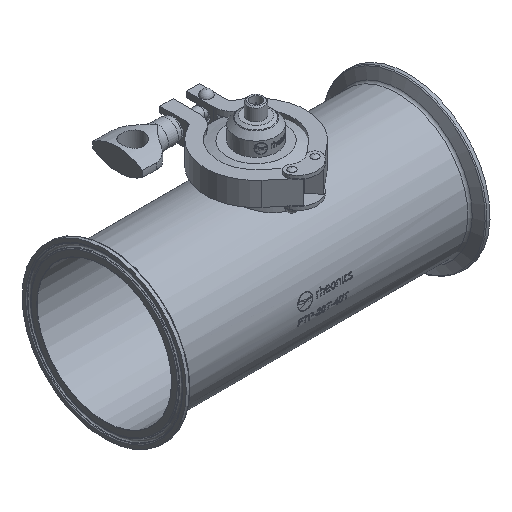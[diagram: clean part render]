
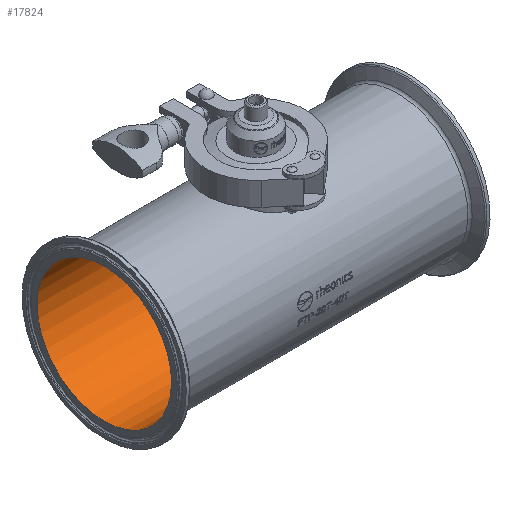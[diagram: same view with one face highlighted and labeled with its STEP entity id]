
A CAD part, isometric view. The second image highlights one B-rep face of the part: STEP entity #17824.
In plain terms, the highlighted cylindrical face has radius 48.69 mm (diameter 97.38 mm), a full revolution.
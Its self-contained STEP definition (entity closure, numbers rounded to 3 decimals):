
#2264=CIRCLE('',#18661,48.69);
#2265=CIRCLE('',#18662,48.69);
#2706=ORIENTED_EDGE('',*,*,#6540,.T.);
#2707=ORIENTED_EDGE('',*,*,#6541,.T.);
#2708=ORIENTED_EDGE('',*,*,#6542,.T.);
#6540=EDGE_CURVE('',#8457,#8457,#9771,.T.);
#6541=EDGE_CURVE('',#8458,#8458,#2264,.F.);
#6542=EDGE_CURVE('',#8459,#8459,#2265,.F.);
#8457=VERTEX_POINT('',#22349);
#8458=VERTEX_POINT('',#22351);
#8459=VERTEX_POINT('',#22353);
#9771=B_SPLINE_CURVE_WITH_KNOTS('',3,(#22304,#22305,#22306,#22307,#22308,
#22309,#22310,#22311,#22312,#22313,#22314,#22315,#22316,#22317,#22318,#22319,
#22320,#22321,#22322,#22323,#22324,#22325,#22326,#22327,#22328,#22329,#22330,
#22331,#22332,#22333,#22334,#22335,#22336,#22337,#22338,#22339,#22340,#22341,
#22342,#22343,#22344,#22345,#22346,#22347,#22348),.UNSPECIFIED.,.T.,.F.,
(1,1,1,1,1,1,1,1,1,1,1,1,1,1,1,1,1,1,1,1,1,1,1,1,1,1,1,1,1,1,1,1,1,1,1,
1,1,1,1,1,1,1,1,1,1,1,1,1,1),(-0.015,-0.01,
-0.005,0.,0.005,0.01,
0.015,0.02,0.022,0.025,
0.03,0.035,0.04,0.042,
0.045,0.047,0.05,0.055,
0.06,0.065,0.07,0.072,
0.075,0.08,0.085,0.089,
0.094,0.099,0.104,0.107,
0.109,0.112,0.114,0.117,
0.119,0.122,0.124,0.129,
0.132,0.134,0.137,0.139,
0.144,0.149,0.154,0.159,
0.164,0.169,0.174),.UNSPECIFIED.);
#10464=EDGE_LOOP('',(#2706));
#10465=EDGE_LOOP('',(#2707));
#10466=EDGE_LOOP('',(#2708));
#11503=FACE_BOUND('',#10464,.T.);
#11504=FACE_BOUND('',#10465,.T.);
#11505=FACE_BOUND('',#10466,.T.);
#12542=CYLINDRICAL_SURFACE('',#18660,48.69);
#17824=ADVANCED_FACE('',(#11503,#11504,#11505),#12542,.F.);
#18660=AXIS2_PLACEMENT_3D('',#22303,#19616,#19617);
#18661=AXIS2_PLACEMENT_3D('',#22350,#19618,#19619);
#18662=AXIS2_PLACEMENT_3D('',#22352,#19620,#19621);
#19616=DIRECTION('',(1.,0.,0.));
#19617=DIRECTION('',(0.,1.,0.));
#19618=DIRECTION('',(-1.,0.,0.));
#19619=DIRECTION('',(0.,-0.924,-0.382));
#19620=DIRECTION('',(1.,0.,0.));
#19621=DIRECTION('',(0.,0.,-1.));
#22303=CARTESIAN_POINT('',(-80.,0.,0.));
#22304=CARTESIAN_POINT('',(24.651,-5.07,48.51));
#22305=CARTESIAN_POINT('',(25.17,0.023,48.778));
#22306=CARTESIAN_POINT('',(24.667,4.979,48.518));
#22307=CARTESIAN_POINT('',(23.192,9.761,47.777));
#22308=CARTESIAN_POINT('',(20.869,14.048,46.683));
#22309=CARTESIAN_POINT('',(18.285,17.179,45.586));
#22310=CARTESIAN_POINT('',(15.92,19.326,44.7));
#22311=CARTESIAN_POINT('',(13.312,21.269,43.82));
#22312=CARTESIAN_POINT('',(9.787,23.178,42.837));
#22313=CARTESIAN_POINT('',(5.009,24.661,41.988));
#22314=CARTESIAN_POINT('',(0.914,25.081,41.733));
#22315=CARTESIAN_POINT('',(-2.454,24.922,41.829));
#22316=CARTESIAN_POINT('',(-4.915,24.553,42.047));
#22317=CARTESIAN_POINT('',(-7.307,23.951,42.394));
#22318=CARTESIAN_POINT('',(-10.424,22.827,43.017));
#22319=CARTESIAN_POINT('',(-13.985,20.91,44.005));
#22320=CARTESIAN_POINT('',(-17.748,17.827,45.358));
#22321=CARTESIAN_POINT('',(-20.832,14.104,46.666));
#22322=CARTESIAN_POINT('',(-22.784,10.512,47.585));
#22323=CARTESIAN_POINT('',(-23.907,7.452,48.136));
#22324=CARTESIAN_POINT('',(-24.742,4.208,48.556));
#22325=CARTESIAN_POINT('',(-25.166,0.094,48.776));
#22326=CARTESIAN_POINT('',(-24.677,-4.946,48.523));
#22327=CARTESIAN_POINT('',(-23.217,-9.695,47.79));
#22328=CARTESIAN_POINT('',(-20.895,-14.015,46.694));
#22329=CARTESIAN_POINT('',(-17.789,-17.784,45.376));
#22330=CARTESIAN_POINT('',(-14.709,-20.328,44.263));
#22331=CARTESIAN_POINT('',(-11.916,-22.023,43.431));
#22332=CARTESIAN_POINT('',(-9.726,-23.073,42.88));
#22333=CARTESIAN_POINT('',(-7.437,-23.91,42.418));
#22334=CARTESIAN_POINT('',(-5.036,-24.53,42.061));
#22335=CARTESIAN_POINT('',(-2.548,-24.912,41.835));
#22336=CARTESIAN_POINT('',(-0.071,-25.041,41.757));
#22337=CARTESIAN_POINT('',(2.418,-24.925,41.827));
#22338=CARTESIAN_POINT('',(5.748,-24.43,42.12));
#22339=CARTESIAN_POINT('',(8.884,-23.469,42.672));
#22340=CARTESIAN_POINT('',(11.857,-22.055,43.415));
#22341=CARTESIAN_POINT('',(13.929,-20.806,44.029));
#22342=CARTESIAN_POINT('',(15.87,-19.368,44.683));
#22343=CARTESIAN_POINT('',(18.279,-17.188,45.583));
#22344=CARTESIAN_POINT('',(20.829,-14.109,46.665));
#22345=CARTESIAN_POINT('',(23.193,-9.753,47.778));
#22346=CARTESIAN_POINT('',(24.651,-5.07,48.51));
#22347=CARTESIAN_POINT('',(25.17,0.023,48.778));
#22348=CARTESIAN_POINT('',(24.667,4.979,48.518));
#22349=CARTESIAN_POINT('',(25.,0.,48.69));
#22350=CARTESIAN_POINT('',(109.85,0.,0.));
#22351=CARTESIAN_POINT('',(109.85,-45.,-18.592));
#22352=CARTESIAN_POINT('',(-109.85,0.,0.));
#22353=CARTESIAN_POINT('',(-109.85,0.,-48.69));
